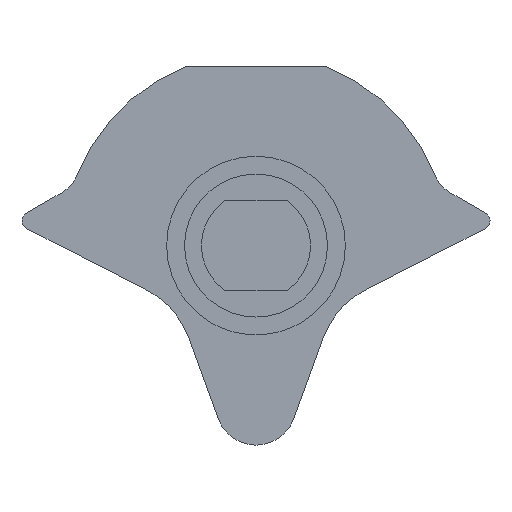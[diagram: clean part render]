
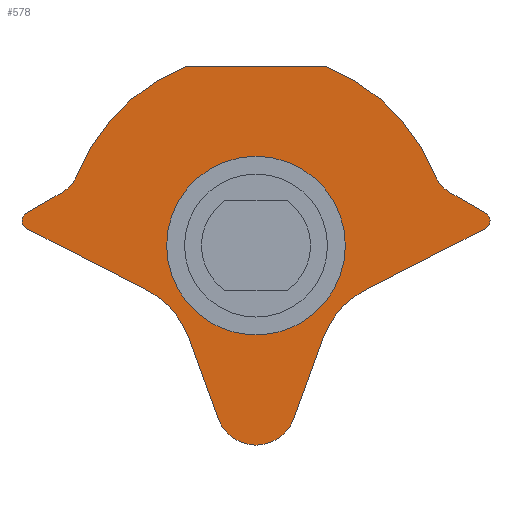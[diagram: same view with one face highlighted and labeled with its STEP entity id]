
A CAD part, front view. The second image highlights one B-rep face of the part: STEP entity #578.
In plain terms, the highlighted planar face has unit normal (0, -1, 0).
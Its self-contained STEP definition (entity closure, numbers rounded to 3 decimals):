
#19=FACE_BOUND('',#197,.T.);
#36=LINE('',#915,#85);
#44=LINE('',#942,#93);
#47=LINE('',#950,#96);
#49=LINE('',#955,#98);
#51=LINE('',#958,#100);
#53=LINE('',#964,#102);
#60=LINE('',#995,#109);
#61=LINE('',#1002,#110);
#62=LINE('',#1005,#111);
#85=VECTOR('',#736,10.);
#93=VECTOR('',#760,10.);
#96=VECTOR('',#771,10.);
#98=VECTOR('',#775,10.);
#100=VECTOR('',#779,10.);
#102=VECTOR('',#783,10.);
#109=VECTOR('',#814,10.);
#110=VECTOR('',#823,10.);
#111=VECTOR('',#826,10.);
#158=FACE_OUTER_BOUND('',#196,.T.);
#196=EDGE_LOOP('',(#480,#481,#482,#483,#484,#485,#486,#487,#488,#489,#490,
#491,#492,#493,#494,#495));
#197=EDGE_LOOP('',(#496,#497,#498,#499));
#219=CIRCLE('',#628,5.);
#220=CIRCLE('',#630,5.);
#222=CIRCLE('',#633,0.5);
#223=CIRCLE('',#636,0.5);
#225=CIRCLE('',#643,10.75);
#233=CIRCLE('',#653,2.25);
#234=CIRCLE('',#654,5.);
#235=CIRCLE('',#655,2.);
#236=CIRCLE('',#656,10.75);
#237=CIRCLE('',#657,2.);
#238=CIRCLE('',#658,5.);
#258=VERTEX_POINT('',#909);
#260=VERTEX_POINT('',#913);
#261=VERTEX_POINT('',#917);
#262=VERTEX_POINT('',#919);
#263=VERTEX_POINT('',#923);
#264=VERTEX_POINT('',#925);
#267=VERTEX_POINT('',#932);
#268=VERTEX_POINT('',#934);
#269=VERTEX_POINT('',#938);
#271=VERTEX_POINT('',#941);
#273=VERTEX_POINT('',#952);
#276=VERTEX_POINT('',#961);
#277=VERTEX_POINT('',#963);
#279=VERTEX_POINT('',#969);
#287=VERTEX_POINT('',#991);
#288=VERTEX_POINT('',#992);
#289=VERTEX_POINT('',#994);
#290=VERTEX_POINT('',#997);
#291=VERTEX_POINT('',#1000);
#292=VERTEX_POINT('',#1003);
#321=EDGE_CURVE('',#260,#258,#36,.T.);
#323=EDGE_CURVE('',#262,#261,#219,.F.);
#327=EDGE_CURVE('',#263,#264,#220,.F.);
#330=EDGE_CURVE('',#267,#268,#222,.T.);
#333=EDGE_CURVE('',#271,#269,#44,.T.);
#336=EDGE_CURVE('',#271,#260,#223,.T.);
#338=EDGE_CURVE('',#262,#264,#47,.T.);
#340=EDGE_CURVE('',#273,#267,#49,.T.);
#342=EDGE_CURVE('',#263,#261,#51,.T.);
#344=EDGE_CURVE('',#277,#276,#53,.T.);
#348=EDGE_CURVE('',#276,#279,#225,.F.);
#359=EDGE_CURVE('',#287,#288,#233,.T.);
#360=EDGE_CURVE('',#287,#289,#60,.T.);
#361=EDGE_CURVE('',#258,#289,#234,.T.);
#362=EDGE_CURVE('',#290,#269,#235,.T.);
#363=EDGE_CURVE('',#290,#277,#236,.F.);
#364=EDGE_CURVE('',#291,#279,#237,.T.);
#365=EDGE_CURVE('',#268,#291,#61,.T.);
#366=EDGE_CURVE('',#292,#273,#238,.T.);
#367=EDGE_CURVE('',#292,#288,#62,.T.);
#480=ORIENTED_EDGE('',*,*,#359,.F.);
#481=ORIENTED_EDGE('',*,*,#360,.T.);
#482=ORIENTED_EDGE('',*,*,#361,.F.);
#483=ORIENTED_EDGE('',*,*,#321,.F.);
#484=ORIENTED_EDGE('',*,*,#336,.F.);
#485=ORIENTED_EDGE('',*,*,#333,.T.);
#486=ORIENTED_EDGE('',*,*,#362,.F.);
#487=ORIENTED_EDGE('',*,*,#363,.T.);
#488=ORIENTED_EDGE('',*,*,#344,.T.);
#489=ORIENTED_EDGE('',*,*,#348,.T.);
#490=ORIENTED_EDGE('',*,*,#364,.F.);
#491=ORIENTED_EDGE('',*,*,#365,.F.);
#492=ORIENTED_EDGE('',*,*,#330,.F.);
#493=ORIENTED_EDGE('',*,*,#340,.F.);
#494=ORIENTED_EDGE('',*,*,#366,.F.);
#495=ORIENTED_EDGE('',*,*,#367,.T.);
#496=ORIENTED_EDGE('',*,*,#323,.T.);
#497=ORIENTED_EDGE('',*,*,#342,.F.);
#498=ORIENTED_EDGE('',*,*,#327,.T.);
#499=ORIENTED_EDGE('',*,*,#338,.F.);
#550=PLANE('',#652);
#578=ADVANCED_FACE('',(#158,#19),#550,.T.);
#628=AXIS2_PLACEMENT_3D('',#920,#740,#741);
#630=AXIS2_PLACEMENT_3D('',#927,#747,#748);
#633=AXIS2_PLACEMENT_3D('',#935,#754,#755);
#636=AXIS2_PLACEMENT_3D('',#947,#765,#766);
#643=AXIS2_PLACEMENT_3D('',#972,#789,#790);
#652=AXIS2_PLACEMENT_3D('',#990,#810,#811);
#653=AXIS2_PLACEMENT_3D('',#993,#812,#813);
#654=AXIS2_PLACEMENT_3D('',#996,#815,#816);
#655=AXIS2_PLACEMENT_3D('',#998,#817,#818);
#656=AXIS2_PLACEMENT_3D('',#999,#819,#820);
#657=AXIS2_PLACEMENT_3D('',#1001,#821,#822);
#658=AXIS2_PLACEMENT_3D('',#1004,#824,#825);
#736=DIRECTION('',(-0.891,0.,-0.455));
#740=DIRECTION('center_axis',(0.,-1.,0.));
#741=DIRECTION('ref_axis',(1.,0.,0.));
#747=DIRECTION('center_axis',(0.,-1.,0.));
#748=DIRECTION('ref_axis',(1.,0.,0.));
#754=DIRECTION('center_axis',(0.,1.,0.));
#755=DIRECTION('ref_axis',(-1.,0.,-0.026));
#760=DIRECTION('',(-0.866,0.,0.5));
#765=DIRECTION('center_axis',(0.,1.,0.));
#766=DIRECTION('ref_axis',(1.,0.,-0.026));
#771=DIRECTION('',(0.891,0.,0.455));
#775=DIRECTION('',(-0.891,0.,0.455));
#779=DIRECTION('',(0.891,0.,-0.455));
#783=DIRECTION('',(-1.,0.,0.));
#789=DIRECTION('center_axis',(0.,1.,0.));
#790=DIRECTION('ref_axis',(-1.,0.,0.));
#810=DIRECTION('center_axis',(0.,-1.,0.));
#811=DIRECTION('ref_axis',(1.,0.,0.));
#812=DIRECTION('center_axis',(0.,1.,0.));
#813=DIRECTION('ref_axis',(0.,0.,-1.));
#814=DIRECTION('',(0.342,0.,0.94));
#815=DIRECTION('center_axis',(0.,-1.,0.));
#816=DIRECTION('ref_axis',(-0.749,0.,0.662));
#817=DIRECTION('center_axis',(0.,-1.,0.));
#818=DIRECTION('ref_axis',(-0.757,0.,-0.654));
#819=DIRECTION('center_axis',(0.,1.,0.));
#820=DIRECTION('ref_axis',(-1.,0.,0.));
#821=DIRECTION('center_axis',(0.,-1.,0.));
#822=DIRECTION('ref_axis',(0.757,0.,-0.654));
#823=DIRECTION('',(0.866,0.,0.5));
#824=DIRECTION('center_axis',(0.,-1.,0.));
#825=DIRECTION('ref_axis',(0.749,0.,0.662));
#826=DIRECTION('',(0.342,0.,-0.94));
#909=CARTESIAN_POINT('',(6.174,11.,-2.452));
#913=CARTESIAN_POINT('',(12.823,11.,0.943));
#915=CARTESIAN_POINT('',(-0.697,11.,-5.96));
#917=CARTESIAN_POINT('',(-2.002,11.,-4.582));
#919=CARTESIAN_POINT('',(2.002,11.,-4.582));
#920=CARTESIAN_POINT('Origin',(0.,11.,0.));
#923=CARTESIAN_POINT('',(-2.537,11.,-4.309));
#925=CARTESIAN_POINT('',(2.537,11.,-4.309));
#927=CARTESIAN_POINT('Origin',(0.,11.,0.));
#932=CARTESIAN_POINT('',(-12.823,11.,0.943));
#934=CARTESIAN_POINT('',(-12.845,11.,1.821));
#935=CARTESIAN_POINT('Origin',(-12.595,11.,1.388));
#938=CARTESIAN_POINT('',(10.85,11.,2.974));
#941=CARTESIAN_POINT('',(12.845,11.,1.821));
#942=CARTESIAN_POINT('',(4.415,11.,6.688));
#947=CARTESIAN_POINT('Origin',(12.595,11.,1.388));
#950=CARTESIAN_POINT('',(4.689,11.,-3.21));
#952=CARTESIAN_POINT('',(-6.174,11.,-2.452));
#955=CARTESIAN_POINT('',(-9.218,11.,-0.897));
#958=CARTESIAN_POINT('',(-4.689,11.,-3.21));
#961=CARTESIAN_POINT('',(-3.945,11.,10.));
#963=CARTESIAN_POINT('',(3.945,11.,10.));
#964=CARTESIAN_POINT('',(-6.25,11.,10.));
#969=CARTESIAN_POINT('',(-9.991,11.,3.967));
#972=CARTESIAN_POINT('Origin',(0.,11.,0.));
#990=CARTESIAN_POINT('Origin',(-12.5,11.,-2.5));
#991=CARTESIAN_POINT('',(2.114,11.,-9.686));
#992=CARTESIAN_POINT('',(-2.114,11.,-9.686));
#993=CARTESIAN_POINT('Origin',(0.,11.,-8.916));
#994=CARTESIAN_POINT('',(3.749,11.,-5.195));
#995=CARTESIAN_POINT('',(2.357,11.,-9.019));
#996=CARTESIAN_POINT('Origin',(8.447,11.,-6.905));
#997=CARTESIAN_POINT('',(9.991,11.,3.967));
#998=CARTESIAN_POINT('Origin',(11.85,11.,4.706));
#999=CARTESIAN_POINT('Origin',(0.,11.,0.));
#1000=CARTESIAN_POINT('',(-10.85,11.,2.974));
#1001=CARTESIAN_POINT('Origin',(-11.85,11.,4.706));
#1002=CARTESIAN_POINT('',(-10.794,11.,3.006));
#1003=CARTESIAN_POINT('',(-3.749,11.,-5.195));
#1004=CARTESIAN_POINT('Origin',(-8.447,11.,-6.905));
#1005=CARTESIAN_POINT('',(-2.,11.,-10.));
